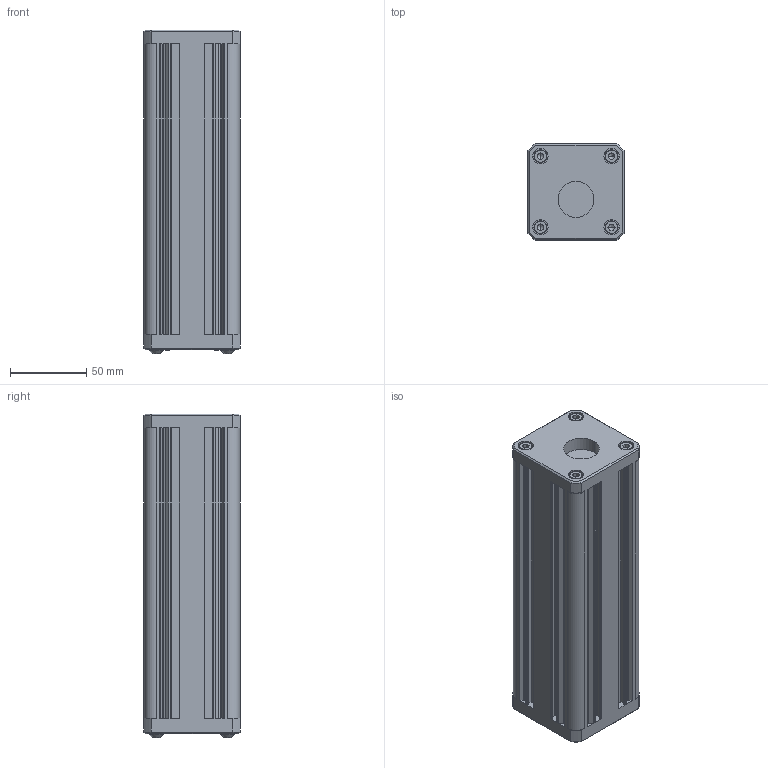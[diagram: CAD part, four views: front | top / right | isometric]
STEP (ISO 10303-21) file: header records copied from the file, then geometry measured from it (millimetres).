
FILE_DESCRIPTION (( 'STEP AP203' ), '1' );
FILE_NAME ('VNOK-A-AL-E-0050-0190.STEP', '2019-02-06T13:03:22', ( '' ), ( '' ), 'SwSTEP 2.0', 'SolidWorks 2018', '' );
FILE_SCHEMA (( 'CONFIG_CONTROL_DESIGN' ));
Length unit declared in the file: millimetre
Products named in the file (1): VNOK-A-AL-E-0050-0190
Bounding box: 63 x 63 x 211.75 mm (x, y, z)
Volume: 765221.8 mm3; surface area: 76849.5 mm2
Topology: 1 solids, 9 shells, 452 faces, 1126 edges, 714 vertices
Faces by surface type: plane 240, cylinder 154, bspline 30, cone 28
Entity records: 14301 total; most frequent: CARTESIAN_POINT 3343, DIRECTION 2336, ORIENTED_EDGE 2220, EDGE_CURVE 1110, AXIS2_PLACEMENT_3D 843, VERTEX_POINT 714, LINE 650, VECTOR 650
